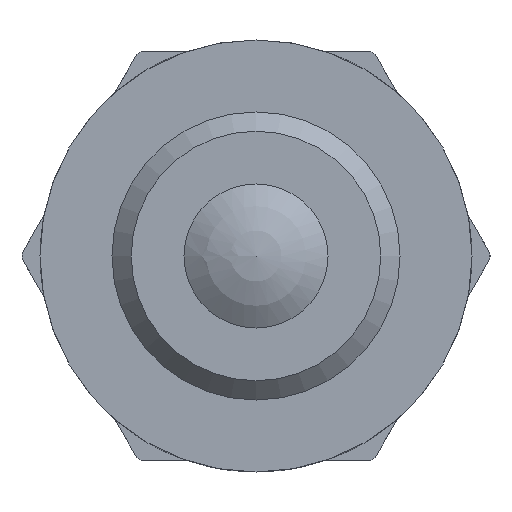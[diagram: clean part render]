
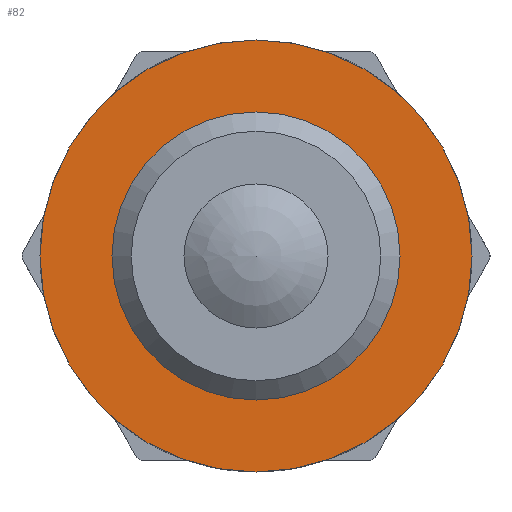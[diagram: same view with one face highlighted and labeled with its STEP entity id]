
A CAD part, front view. The second image highlights one B-rep face of the part: STEP entity #82.
In plain terms, the highlighted planar face has unit normal (0, -1, 0).
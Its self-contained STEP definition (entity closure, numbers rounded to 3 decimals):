
#82 = ADVANCED_FACE( '', ( #137, #138 ), #139, .F. );
#137 = FACE_BOUND( '', #232, .T. );
#138 = FACE_OUTER_BOUND( '', #233, .T. );
#139 = PLANE( '', #234 );
#232 = EDGE_LOOP( '', ( #350 ) );
#233 = EDGE_LOOP( '', ( #351 ) );
#234 = AXIS2_PLACEMENT_3D( '', #352, #353, #354 );
#350 = ORIENTED_EDGE( '', *, *, #614, .F. );
#351 = ORIENTED_EDGE( '', *, *, #615, .T. );
#352 = CARTESIAN_POINT( '', ( 9., 0., 0. ) );
#353 = DIRECTION( '', ( 0., 1., 0. ) );
#354 = DIRECTION( '', ( 0., 0., 1. ) );
#614 = EDGE_CURVE( '', #709, #709, #710, .T. );
#615 = EDGE_CURVE( '', #711, #711, #712, .T. );
#709 = VERTEX_POINT( '', #859 );
#710 = CIRCLE( '', #860, 6. );
#711 = VERTEX_POINT( '', #861 );
#712 = CIRCLE( '', #862, 9. );
#859 = CARTESIAN_POINT( '', ( 0., 0., -6. ) );
#860 = AXIS2_PLACEMENT_3D( '', #1064, #1065, #1066 );
#861 = CARTESIAN_POINT( '', ( 0., 0., -9. ) );
#862 = AXIS2_PLACEMENT_3D( '', #1067, #1068, #1069 );
#1064 = CARTESIAN_POINT( '', ( 0., 0., 0. ) );
#1065 = DIRECTION( '', ( 0., -1., 0. ) );
#1066 = DIRECTION( '', ( 0., 0., -1. ) );
#1067 = CARTESIAN_POINT( '', ( 0., 0., 0. ) );
#1068 = DIRECTION( '', ( 0., -1., 0. ) );
#1069 = DIRECTION( '', ( 0., 0., -1. ) );
